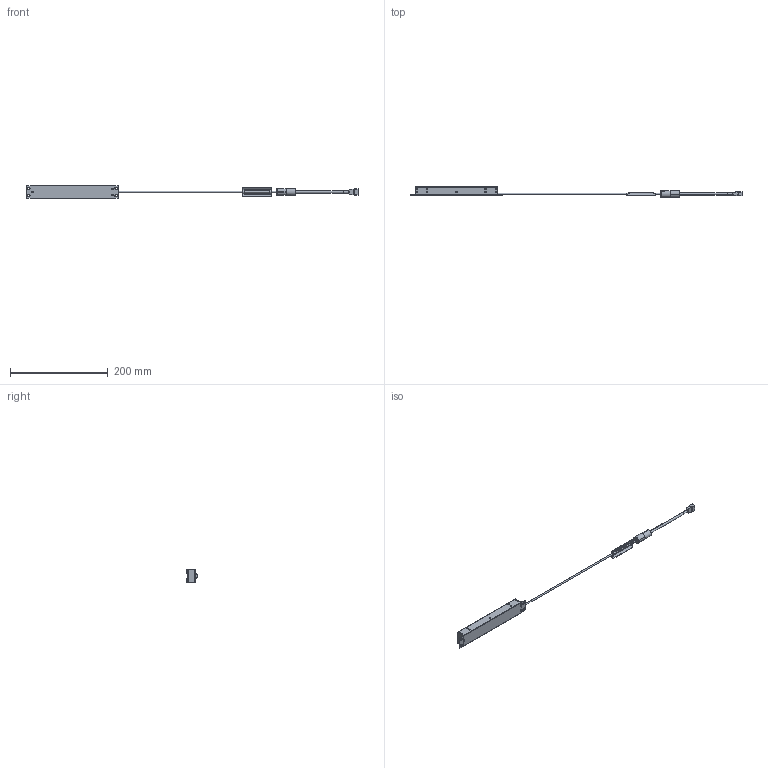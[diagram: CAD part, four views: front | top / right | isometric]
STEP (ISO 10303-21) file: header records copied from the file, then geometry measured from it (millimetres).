
FILE_DESCRIPTION (( 'STEP AP203' ), '1' );
FILE_NAME ('MBRC-C#15012-DF_A09387A0100101A-003.STEP', '2013-12-25T06:02:21', ( 'SCHOTT' ), ( 'SCHOTT' ), 'SwSTEP 2.0', 'SolidWorks 2011', '' );
FILE_SCHEMA (( 'CONFIG_CONTROL_DESIGN' ));
Length unit declared in the file: millimetre
Products named in the file (1): MBRC-C#15012-DF_A09387A0100101A-003
Bounding box: 679 x 22.35 x 27 mm (x, y, z)
Volume: 90966.8 mm3; surface area: 33220.1 mm2
Topology: 2 solids, 30 shells, 822 faces, 2385 edges, 1694 vertices
Faces by surface type: plane 488, cylinder 253, cone 66, bspline 8, sphere 4, torus 3
Entity records: 33611 total; most frequent: CARTESIAN_POINT 11804, ORIENTED_EDGE 4762, DIRECTION 4175, EDGE_CURVE 2381, VERTEX_POINT 1694, VECTOR 1427, LINE 1427, AXIS2_PLACEMENT_3D 1374
